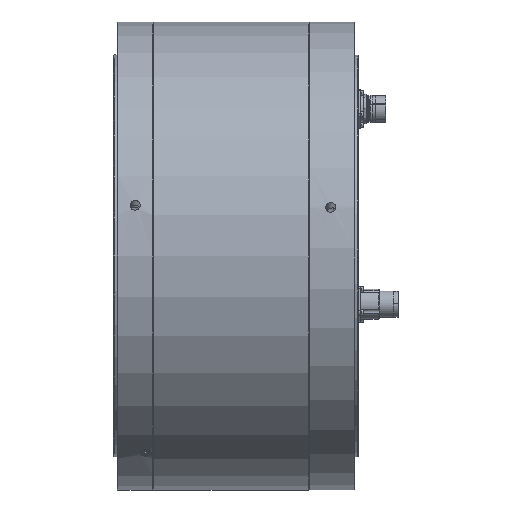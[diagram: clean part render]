
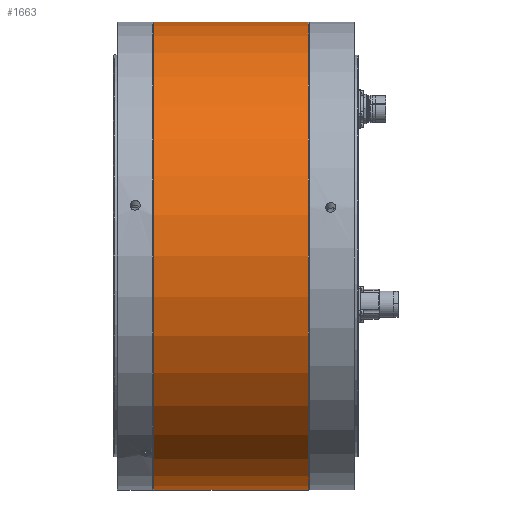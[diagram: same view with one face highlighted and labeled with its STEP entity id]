
A CAD part, front view. The second image highlights one B-rep face of the part: STEP entity #1663.
In plain terms, the highlighted cylindrical face has radius 195 mm (diameter 390 mm), a full revolution.
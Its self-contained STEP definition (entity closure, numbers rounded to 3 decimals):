
#1663 = ADVANCED_FACE( '', ( #3451, #3452 ), #3453, .T. );
#3451 = FACE_OUTER_BOUND( '', #5833, .T. );
#3452 = FACE_OUTER_BOUND( '', #5834, .T. );
#3453 = CYLINDRICAL_SURFACE( '', #5835, 195. );
#5833 = EDGE_LOOP( '', ( #9087 ) );
#5834 = EDGE_LOOP( '', ( #9088 ) );
#5835 = AXIS2_PLACEMENT_3D( '', #9089, #9090, #9091 );
#9087 = ORIENTED_EDGE( '', *, *, #11806, .T. );
#9088 = ORIENTED_EDGE( '', *, *, #12092, .T. );
#9089 = CARTESIAN_POINT( '', ( -60., 0., 0. ) );
#9090 = DIRECTION( '', ( 1., 0., 0. ) );
#9091 = DIRECTION( '', ( 0., 0., 1. ) );
#11806 = EDGE_CURVE( '', #14495, #14495, #14496, .F. );
#12092 = EDGE_CURVE( '', #14920, #14920, #14921, .F. );
#14495 = VERTEX_POINT( '', #16746 );
#14496 = CIRCLE( '', #16747, 195. );
#14920 = VERTEX_POINT( '', #17392 );
#14921 = CIRCLE( '', #17393, 195. );
#16746 = CARTESIAN_POINT( '', ( 0.5, 0., 195. ) );
#16747 = AXIS2_PLACEMENT_3D( '', #19592, #19593, #19594 );
#17392 = CARTESIAN_POINT( '', ( 129.5, 0., -195. ) );
#17393 = AXIS2_PLACEMENT_3D( '', #20021, #20022, #20023 );
#19592 = CARTESIAN_POINT( '', ( 0.5, 0., 0. ) );
#19593 = DIRECTION( '', ( -1., 0., 0. ) );
#19594 = DIRECTION( '', ( 0., 0., 1. ) );
#20021 = CARTESIAN_POINT( '', ( 129.5, 0., 0. ) );
#20022 = DIRECTION( '', ( 1., 0., 0. ) );
#20023 = DIRECTION( '', ( 0., 0., -1. ) );
